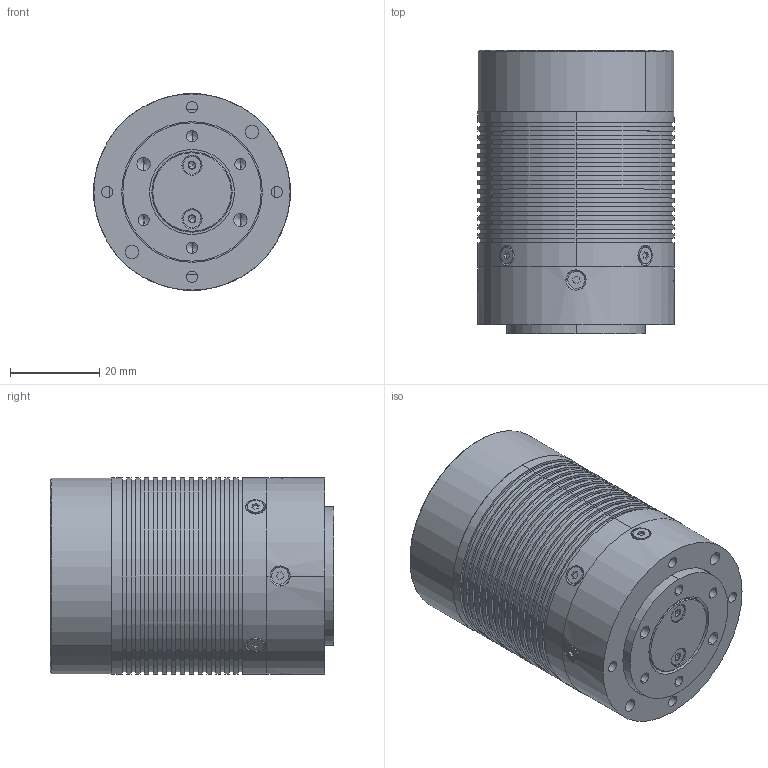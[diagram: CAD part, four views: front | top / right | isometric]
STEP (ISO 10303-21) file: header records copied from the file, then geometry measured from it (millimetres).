
FILE_DESCRIPTION (( 'STEP AP203' ), '1' );
FILE_NAME ('RMD-X2-P28-7 外形图.STEP', '2026-01-29T03:25:28', ( '微软用户' ), ( '微软中国' ), 'SwSTEP 2.0', 'SolidWorks 2020', '' );
FILE_SCHEMA (( 'CONFIG_CONTROL_DESIGN' ));
Length unit declared in the file: millimetre
Products named in the file (10): M2X4; XMT.105.001_Default<偌樓馱>; XMT.105.009; 8MT.013.028; XMT.105.017; RMD-X2-P28-7 俋倛芞; 内六角沉头螺丝 M2_M2x4  12.9级黑; 8MT.034.006; M2X18; XMT.105.025
Assembly tree (18 placements, depth 2):
  RMD-X2-P28-7 俋倛芞
    XMT.105.001_Default<偌樓馱>
    8MT.034.006
    内六角沉头螺丝 M2_M2x4  12.9级黑  x8
    XMT.105.009
    XMT.105.017
    XMT.105.025
    8MT.013.028
    M2X18  x2
    M2X4  x2
Bounding box: 44.01 x 63.5 x 44.01 mm (x, y, z)
Volume: 28858 mm3; surface area: 38828.5 mm2
Topology: 18 solids, 18 shells, 746 faces, 1830 edges, 1135 vertices
Faces by surface type: cylinder 396, plane 207, cone 135, bspline 8
Entity records: 20604 total; most frequent: CARTESIAN_POINT 4567, DIRECTION 3326, ORIENTED_EDGE 2940, EDGE_CURVE 1470, AXIS2_PLACEMENT_3D 1376, VERTEX_POINT 937, CIRCLE 772, EDGE_LOOP 731
